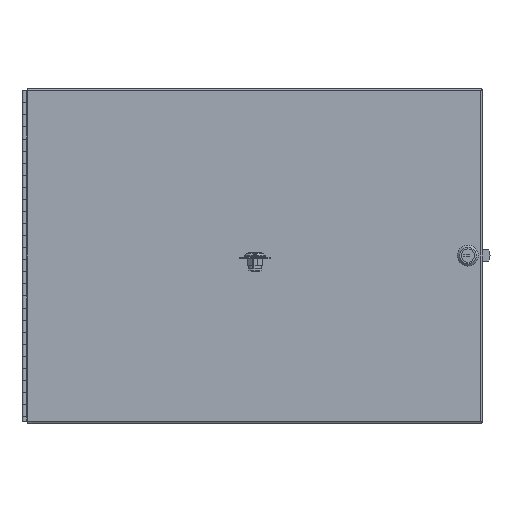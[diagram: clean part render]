
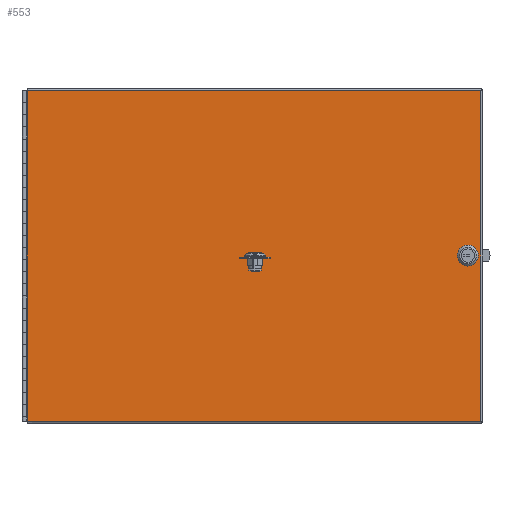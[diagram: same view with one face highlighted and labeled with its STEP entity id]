
A CAD part, front view. The second image highlights one B-rep face of the part: STEP entity #553.
In plain terms, the highlighted planar face has unit normal (0, -1, 0).
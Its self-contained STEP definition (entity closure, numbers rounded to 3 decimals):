
#553 = ADVANCED_FACE( '', ( #1026, #1027 ), #1028, .T. );
#1026 = FACE_BOUND( '', #1602, .T. );
#1027 = FACE_OUTER_BOUND( '', #1603, .T. );
#1028 = PLANE( '', #1604 );
#1602 = EDGE_LOOP( '', ( #3490, #3491, #3492, #3493, #3494, #3495, #3496, #3497 ) );
#1603 = EDGE_LOOP( '', ( #3498, #3499, #3500, #3501 ) );
#1604 = AXIS2_PLACEMENT_3D( '', #3502, #3503, #3504 );
#3490 = ORIENTED_EDGE( '', *, *, #4747, .F. );
#3491 = ORIENTED_EDGE( '', *, *, #4749, .F. );
#3492 = ORIENTED_EDGE( '', *, *, #4750, .F. );
#3493 = ORIENTED_EDGE( '', *, *, #4751, .F. );
#3494 = ORIENTED_EDGE( '', *, *, #4752, .F. );
#3495 = ORIENTED_EDGE( '', *, *, #4753, .F. );
#3496 = ORIENTED_EDGE( '', *, *, #4754, .F. );
#3497 = ORIENTED_EDGE( '', *, *, #4743, .F. );
#3498 = ORIENTED_EDGE( '', *, *, #4755, .T. );
#3499 = ORIENTED_EDGE( '', *, *, #4756, .F. );
#3500 = ORIENTED_EDGE( '', *, *, #4757, .F. );
#3501 = ORIENTED_EDGE( '', *, *, #4758, .T. );
#3502 = CARTESIAN_POINT( '', ( -239.713, 0., -176.213 ) );
#3503 = DIRECTION( '', ( 0., -1., 0. ) );
#3504 = DIRECTION( '', ( 0., 0., -1. ) );
#4743 = EDGE_CURVE( '', #5863, #5865, #5866, .T. );
#4747 = EDGE_CURVE( '', #5871, #5863, #5873, .T. );
#4749 = EDGE_CURVE( '', #5875, #5871, #5876, .T. );
#4750 = EDGE_CURVE( '', #5877, #5875, #5878, .T. );
#4751 = EDGE_CURVE( '', #5879, #5877, #5880, .T. );
#4752 = EDGE_CURVE( '', #5881, #5879, #5882, .T. );
#4753 = EDGE_CURVE( '', #5883, #5881, #5884, .T. );
#4754 = EDGE_CURVE( '', #5865, #5883, #5885, .T. );
#4755 = EDGE_CURVE( '', #5886, #5887, #5888, .T. );
#4756 = EDGE_CURVE( '', #5889, #5887, #5890, .T. );
#4757 = EDGE_CURVE( '', #5891, #5889, #5892, .T. );
#4758 = EDGE_CURVE( '', #5891, #5886, #5893, .T. );
#5863 = VERTEX_POINT( '', #7539 );
#5865 = VERTEX_POINT( '', #7542 );
#5866 = LINE( '', #7543, #7544 );
#5871 = VERTEX_POINT( '', #7551 );
#5873 = LINE( '', #7554, #7555 );
#5875 = VERTEX_POINT( '', #7558 );
#5876 = LINE( '', #7559, #7560 );
#5877 = VERTEX_POINT( '', #7561 );
#5878 = LINE( '', #7562, #7563 );
#5879 = VERTEX_POINT( '', #7564 );
#5880 = LINE( '', #7565, #7566 );
#5881 = VERTEX_POINT( '', #7567 );
#5882 = LINE( '', #7568, #7569 );
#5883 = VERTEX_POINT( '', #7570 );
#5884 = LINE( '', #7571, #7572 );
#5885 = LINE( '', #7573, #7574 );
#5886 = VERTEX_POINT( '', #7575 );
#5887 = VERTEX_POINT( '', #7576 );
#5888 = LINE( '', #7577, #7578 );
#5889 = VERTEX_POINT( '', #7579 );
#5890 = LINE( '', #7580, #7581 );
#5891 = VERTEX_POINT( '', #7582 );
#5892 = LINE( '', #7583, #7584 );
#5893 = LINE( '', #7585, #7586 );
#7539 = CARTESIAN_POINT( '', ( 215.43, 0., -1.92 ) );
#7542 = CARTESIAN_POINT( '', ( 221.918, 0., -8.407 ) );
#7543 = CARTESIAN_POINT( '', ( 215.43, 0., -1.92 ) );
#7544 = VECTOR( '', #8925, 1000. );
#7551 = CARTESIAN_POINT( '', ( 215.43, 0., 1.92 ) );
#7554 = CARTESIAN_POINT( '', ( 215.43, 0., 1.92 ) );
#7555 = VECTOR( '', #8929, 1000. );
#7558 = CARTESIAN_POINT( '', ( 221.918, 0., 8.407 ) );
#7559 = CARTESIAN_POINT( '', ( 221.918, 0., 8.407 ) );
#7560 = VECTOR( '', #8931, 1000. );
#7561 = CARTESIAN_POINT( '', ( 225.757, 0., 8.407 ) );
#7562 = CARTESIAN_POINT( '', ( 225.757, 0., 8.407 ) );
#7563 = VECTOR( '', #8932, 1000. );
#7564 = CARTESIAN_POINT( '', ( 232.245, 0., 1.92 ) );
#7565 = CARTESIAN_POINT( '', ( 232.245, 0., 1.92 ) );
#7566 = VECTOR( '', #8933, 1000. );
#7567 = CARTESIAN_POINT( '', ( 232.245, 0., -1.92 ) );
#7568 = CARTESIAN_POINT( '', ( 232.245, 0., -1.92 ) );
#7569 = VECTOR( '', #8934, 1000. );
#7570 = CARTESIAN_POINT( '', ( 225.757, 0., -8.407 ) );
#7571 = CARTESIAN_POINT( '', ( 225.757, 0., -8.407 ) );
#7572 = VECTOR( '', #8935, 1000. );
#7573 = CARTESIAN_POINT( '', ( 221.918, 0., -8.407 ) );
#7574 = VECTOR( '', #8936, 1000. );
#7575 = CARTESIAN_POINT( '', ( -239.713, 0., -174.028 ) );
#7576 = CARTESIAN_POINT( '', ( 237.528, 0., -174.028 ) );
#7577 = CARTESIAN_POINT( '', ( -239.713, 0., -174.028 ) );
#7578 = VECTOR( '', #8937, 1000. );
#7579 = CARTESIAN_POINT( '', ( 237.528, 0., 174.028 ) );
#7580 = CARTESIAN_POINT( '', ( 237.528, 0., 174.028 ) );
#7581 = VECTOR( '', #8938, 1000. );
#7582 = CARTESIAN_POINT( '', ( -239.713, 0., 174.028 ) );
#7583 = CARTESIAN_POINT( '', ( -239.713, 0., 174.028 ) );
#7584 = VECTOR( '', #8939, 1000. );
#7585 = CARTESIAN_POINT( '', ( -239.713, 0., 176.213 ) );
#7586 = VECTOR( '', #8940, 1000. );
#8925 = DIRECTION( '', ( 0.707, 0., -0.707 ) );
#8929 = DIRECTION( '', ( 0., 0., -1. ) );
#8931 = DIRECTION( '', ( -0.707, 0., -0.707 ) );
#8932 = DIRECTION( '', ( -1., 0., 0. ) );
#8933 = DIRECTION( '', ( -0.707, 0., 0.707 ) );
#8934 = DIRECTION( '', ( 0., 0., 1. ) );
#8935 = DIRECTION( '', ( 0.707, 0., 0.707 ) );
#8936 = DIRECTION( '', ( 1., 0., 0. ) );
#8937 = DIRECTION( '', ( 1., 0., 0. ) );
#8938 = DIRECTION( '', ( 0., 0., -1. ) );
#8939 = DIRECTION( '', ( 1., 0., 0. ) );
#8940 = DIRECTION( '', ( 0., 0., -1. ) );
